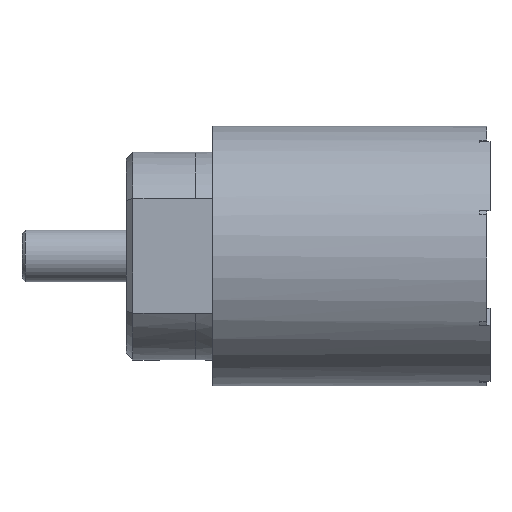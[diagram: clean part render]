
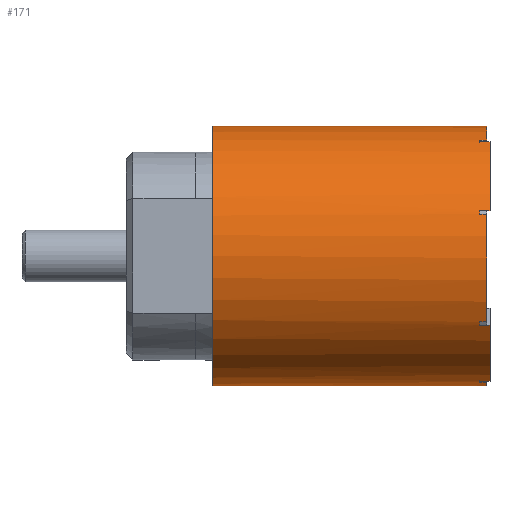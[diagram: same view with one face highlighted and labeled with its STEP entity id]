
A CAD part, top view. The second image highlights one B-rep face of the part: STEP entity #171.
In plain terms, the highlighted cylindrical face has radius 3.75 mm (diameter 7.5 mm), a full revolution.
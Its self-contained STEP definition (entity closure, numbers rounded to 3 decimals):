
#171=ADVANCED_FACE('',(#380,#381),#382,.T.);
#380=FACE_OUTER_BOUND('',#662,.T.);
#381=FACE_OUTER_BOUND('',#663,.T.);
#382=CYLINDRICAL_SURFACE('',#664,3.75);
#662=EDGE_LOOP('',(#996,#997,#998,#999,#1000,#1001,#1002,#1003,#1004,#1005,#1006,#1007,#1008,#1009,#1010,#1011,#1012,#1013,#1014,#1015,#1016,#1017,#1018,#1019,#1020,#1021,#1022,#1023));
#663=EDGE_LOOP('',(#1024));
#664=AXIS2_PLACEMENT_3D('',#1025,#1026,#1027);
#996=ORIENTED_EDGE('',*,*,#1695,.F.);
#997=ORIENTED_EDGE('',*,*,#1696,.T.);
#998=ORIENTED_EDGE('',*,*,#1697,.F.);
#999=ORIENTED_EDGE('',*,*,#1678,.T.);
#1000=ORIENTED_EDGE('',*,*,#1698,.T.);
#1001=ORIENTED_EDGE('',*,*,#1699,.F.);
#1002=ORIENTED_EDGE('',*,*,#1700,.F.);
#1003=ORIENTED_EDGE('',*,*,#1666,.T.);
#1004=ORIENTED_EDGE('',*,*,#1701,.F.);
#1005=ORIENTED_EDGE('',*,*,#1702,.T.);
#1006=ORIENTED_EDGE('',*,*,#1703,.F.);
#1007=ORIENTED_EDGE('',*,*,#1663,.T.);
#1008=ORIENTED_EDGE('',*,*,#1704,.T.);
#1009=ORIENTED_EDGE('',*,*,#1705,.F.);
#1010=ORIENTED_EDGE('',*,*,#1706,.F.);
#1011=ORIENTED_EDGE('',*,*,#1707,.T.);
#1012=ORIENTED_EDGE('',*,*,#1708,.F.);
#1013=ORIENTED_EDGE('',*,*,#1709,.T.);
#1014=ORIENTED_EDGE('',*,*,#1710,.F.);
#1015=ORIENTED_EDGE('',*,*,#1673,.T.);
#1016=ORIENTED_EDGE('',*,*,#1711,.T.);
#1017=ORIENTED_EDGE('',*,*,#1712,.F.);
#1018=ORIENTED_EDGE('',*,*,#1713,.F.);
#1019=ORIENTED_EDGE('',*,*,#1691,.T.);
#1020=ORIENTED_EDGE('',*,*,#1714,.F.);
#1021=ORIENTED_EDGE('',*,*,#1715,.T.);
#1022=ORIENTED_EDGE('',*,*,#1716,.T.);
#1023=ORIENTED_EDGE('',*,*,#1717,.F.);
#1024=ORIENTED_EDGE('',*,*,#1718,.F.);
#1025=CARTESIAN_POINT('',(2.8,0.0,0.0));
#1026=DIRECTION('',(1.0,0.0,0.0));
#1027=DIRECTION('',(0.0,1.0,0.0));
#1663=EDGE_CURVE('',#1960,#1964,#1966,.F.);
#1666=EDGE_CURVE('',#1971,#1968,#1972,.F.);
#1673=EDGE_CURVE('',#1978,#1982,#1984,.F.);
#1678=EDGE_CURVE('',#1987,#1991,#1993,.F.);
#1691=EDGE_CURVE('',#2015,#2012,#2016,.F.);
#1695=EDGE_CURVE('',#2021,#2022,#2023,.T.);
#1696=EDGE_CURVE('',#2021,#2024,#2025,.T.);
#1697=EDGE_CURVE('',#1987,#2024,#2026,.F.);
#1698=EDGE_CURVE('',#1991,#2027,#2028,.T.);
#1699=EDGE_CURVE('',#2029,#2027,#2030,.T.);
#1700=EDGE_CURVE('',#1971,#2029,#2031,.T.);
#1701=EDGE_CURVE('',#2032,#1968,#2033,.T.);
#1702=EDGE_CURVE('',#2032,#2034,#2035,.T.);
#1703=EDGE_CURVE('',#1960,#2034,#2036,.F.);
#1704=EDGE_CURVE('',#1964,#2037,#2038,.T.);
#1705=EDGE_CURVE('',#2039,#2037,#2040,.T.);
#1706=EDGE_CURVE('',#2041,#2039,#2042,.T.);
#1707=EDGE_CURVE('',#2041,#2043,#2044,.F.);
#1708=EDGE_CURVE('',#2045,#2043,#2046,.T.);
#1709=EDGE_CURVE('',#2045,#2047,#2048,.T.);
#1710=EDGE_CURVE('',#1978,#2047,#2049,.F.);
#1711=EDGE_CURVE('',#1982,#2050,#2051,.T.);
#1712=EDGE_CURVE('',#2052,#2050,#2053,.T.);
#1713=EDGE_CURVE('',#2015,#2052,#2054,.T.);
#1714=EDGE_CURVE('',#2055,#2012,#2056,.T.);
#1715=EDGE_CURVE('',#2055,#2057,#2058,.T.);
#1716=EDGE_CURVE('',#2057,#2059,#2060,.T.);
#1717=EDGE_CURVE('',#2022,#2059,#2061,.T.);
#1718=EDGE_CURVE('',#2062,#2062,#2063,.T.);
#1960=VERTEX_POINT('',#2409);
#1964=VERTEX_POINT('',#2414);
#1966=CIRCLE('',#2417,3.75);
#1968=VERTEX_POINT('',#2419);
#1971=VERTEX_POINT('',#2423);
#1972=CIRCLE('',#2424,3.75);
#1978=VERTEX_POINT('',#2431);
#1982=VERTEX_POINT('',#2436);
#1984=CIRCLE('',#2439,3.75);
#1987=VERTEX_POINT('',#2442);
#1991=VERTEX_POINT('',#2447);
#1993=CIRCLE('',#2450,3.75);
#2012=VERTEX_POINT('',#2471);
#2015=VERTEX_POINT('',#2475);
#2016=CIRCLE('',#2476,3.75);
#2021=VERTEX_POINT('',#2482);
#2022=VERTEX_POINT('',#2483);
#2023=LINE('',#2484,#2485);
#2024=VERTEX_POINT('',#2486);
#2025=CIRCLE('',#2487,3.75);
#2026=LINE('',#2488,#2489);
#2027=VERTEX_POINT('',#2490);
#2028=LINE('',#2491,#2492);
#2029=VERTEX_POINT('',#2493);
#2030=CIRCLE('',#2494,3.75);
#2031=LINE('',#2495,#2496);
#2032=VERTEX_POINT('',#2497);
#2033=LINE('',#2498,#2499);
#2034=VERTEX_POINT('',#2500);
#2035=CIRCLE('',#2501,3.75);
#2036=LINE('',#2502,#2503);
#2037=VERTEX_POINT('',#2504);
#2038=LINE('',#2505,#2506);
#2039=VERTEX_POINT('',#2507);
#2040=CIRCLE('',#2508,3.75);
#2041=VERTEX_POINT('',#2509);
#2042=LINE('',#2510,#2511);
#2043=VERTEX_POINT('',#2512);
#2044=CIRCLE('',#2513,3.75);
#2045=VERTEX_POINT('',#2514);
#2046=LINE('',#2515,#2516);
#2047=VERTEX_POINT('',#2517);
#2048=CIRCLE('',#2518,3.75);
#2049=LINE('',#2519,#2520);
#2050=VERTEX_POINT('',#2521);
#2051=LINE('',#2522,#2523);
#2052=VERTEX_POINT('',#2524);
#2053=CIRCLE('',#2525,3.75);
#2054=LINE('',#2526,#2527);
#2055=VERTEX_POINT('',#2528);
#2056=LINE('',#2529,#2530);
#2057=VERTEX_POINT('',#2531);
#2058=CIRCLE('',#2532,3.75);
#2059=VERTEX_POINT('',#2533);
#2060=LINE('',#2534,#2535);
#2061=CIRCLE('',#2536,3.75);
#2062=VERTEX_POINT('',#2537);
#2063=CIRCLE('',#2538,3.75);
#2409=CARTESIAN_POINT('',(10.2,-2.0,3.172));
#2414=CARTESIAN_POINT('',(10.2,-1.9,3.233));
#2417=AXIS2_PLACEMENT_3D('',#2946,#2947,#2948);
#2419=CARTESIAN_POINT('',(10.2,-3.614,1.0));
#2423=CARTESIAN_POINT('',(10.2,-3.64,0.9));
#2424=AXIS2_PLACEMENT_3D('',#2950,#2951,#2952);
#2431=CARTESIAN_POINT('',(10.2,3.29,1.8));
#2436=CARTESIAN_POINT('',(10.2,3.343,1.7));
#2439=AXIS2_PLACEMENT_3D('',#2962,#2963,#2964);
#2442=CARTESIAN_POINT('',(10.2,-3.614,-1.0));
#2447=CARTESIAN_POINT('',(10.2,-3.64,-0.9));
#2450=AXIS2_PLACEMENT_3D('',#2970,#2971,#2972);
#2471=CARTESIAN_POINT('',(10.2,3.29,-1.8));
#2475=CARTESIAN_POINT('',(10.2,3.343,-1.7));
#2476=AXIS2_PLACEMENT_3D('',#2991,#2992,#2993);
#2482=CARTESIAN_POINT('',(10.5,-1.5,-3.437));
#2483=CARTESIAN_POINT('',(9.3,-1.5,-3.437));
#2484=CARTESIAN_POINT('',(10.2,-1.5,-3.437));
#2485=VECTOR('',#2998,1.0);
#2486=CARTESIAN_POINT('',(10.5,-3.614,-1.0));
#2487=AXIS2_PLACEMENT_3D('',#2999,#3000,#3001);
#2488=CARTESIAN_POINT('',(0.0,-3.614,-1.0));
#2489=VECTOR('',#3002,1.0);
#2490=CARTESIAN_POINT('',(10.4,-3.64,-0.9));
#2491=CARTESIAN_POINT('',(10.2,-3.64,-0.9));
#2492=VECTOR('',#3003,1.0);
#2493=CARTESIAN_POINT('',(10.4,-3.64,0.9));
#2494=AXIS2_PLACEMENT_3D('',#3004,#3005,#3006);
#2495=CARTESIAN_POINT('',(10.2,-3.64,0.9));
#2496=VECTOR('',#3007,1.0);
#2497=CARTESIAN_POINT('',(10.5,-3.614,1.0));
#2498=CARTESIAN_POINT('',(0.0,-3.614,1.0));
#2499=VECTOR('',#3008,1.0);
#2500=CARTESIAN_POINT('',(10.5,-2.0,3.172));
#2501=AXIS2_PLACEMENT_3D('',#3009,#3010,#3011);
#2502=CARTESIAN_POINT('',(0.0,-2.0,3.172));
#2503=VECTOR('',#3012,1.0);
#2504=CARTESIAN_POINT('',(10.4,-1.9,3.233));
#2505=CARTESIAN_POINT('',(10.2,-1.9,3.233));
#2506=VECTOR('',#3013,1.0);
#2507=CARTESIAN_POINT('',(10.4,1.2,3.553));
#2508=AXIS2_PLACEMENT_3D('',#3014,#3015,#3016);
#2509=CARTESIAN_POINT('',(10.2,1.2,3.553));
#2510=CARTESIAN_POINT('',(10.2,1.2,3.553));
#2511=VECTOR('',#3017,1.0);
#2512=CARTESIAN_POINT('',(10.2,1.3,3.517));
#2513=AXIS2_PLACEMENT_3D('',#3018,#3019,#3020);
#2514=CARTESIAN_POINT('',(10.5,1.3,3.517));
#2515=CARTESIAN_POINT('',(0.0,1.3,3.517));
#2516=VECTOR('',#3021,1.0);
#2517=CARTESIAN_POINT('',(10.5,3.29,1.8));
#2518=AXIS2_PLACEMENT_3D('',#3022,#3023,#3024);
#2519=CARTESIAN_POINT('',(0.0,3.29,1.8));
#2520=VECTOR('',#3025,1.0);
#2521=CARTESIAN_POINT('',(10.4,3.343,1.7));
#2522=CARTESIAN_POINT('',(10.2,3.343,1.7));
#2523=VECTOR('',#3026,1.0);
#2524=CARTESIAN_POINT('',(10.4,3.343,-1.7));
#2525=AXIS2_PLACEMENT_3D('',#3027,#3028,#3029);
#2526=CARTESIAN_POINT('',(10.2,3.343,-1.7));
#2527=VECTOR('',#3030,1.0);
#2528=CARTESIAN_POINT('',(10.5,3.29,-1.8));
#2529=CARTESIAN_POINT('',(0.0,3.29,-1.8));
#2530=VECTOR('',#3031,1.0);
#2531=CARTESIAN_POINT('',(10.5,1.5,-3.437));
#2532=AXIS2_PLACEMENT_3D('',#3032,#3033,#3034);
#2533=CARTESIAN_POINT('',(9.3,1.5,-3.437));
#2534=CARTESIAN_POINT('',(10.2,1.5,-3.437));
#2535=VECTOR('',#3035,1.0);
#2536=AXIS2_PLACEMENT_3D('',#3036,#3037,#3038);
#2537=CARTESIAN_POINT('',(2.5,0.0,3.75));
#2538=AXIS2_PLACEMENT_3D('',#3039,#3040,#3041);
#2946=CARTESIAN_POINT('',(10.2,0.0,0.0));
#2947=DIRECTION('',(1.0,0.0,0.0));
#2948=DIRECTION('',(0.0,0.0,-1.0));
#2950=CARTESIAN_POINT('',(10.2,0.0,0.0));
#2951=DIRECTION('',(1.0,0.0,0.0));
#2952=DIRECTION('',(0.0,0.0,-1.0));
#2962=CARTESIAN_POINT('',(10.2,0.0,0.0));
#2963=DIRECTION('',(1.0,0.0,0.0));
#2964=DIRECTION('',(0.0,0.0,-1.0));
#2970=CARTESIAN_POINT('',(10.2,0.0,0.0));
#2971=DIRECTION('',(1.0,0.0,0.0));
#2972=DIRECTION('',(0.0,0.0,-1.0));
#2991=CARTESIAN_POINT('',(10.2,0.0,0.0));
#2992=DIRECTION('',(1.0,0.0,0.0));
#2993=DIRECTION('',(0.0,0.0,-1.0));
#2998=DIRECTION('',(-1.0,0.0,0.0));
#2999=CARTESIAN_POINT('',(10.5,0.0,0.0));
#3000=DIRECTION('',(-1.0,0.0,0.0));
#3001=DIRECTION('',(0.0,0.0,1.0));
#3002=DIRECTION('',(-1.0,0.0,0.0));
#3003=DIRECTION('',(1.0,0.,0.));
#3004=CARTESIAN_POINT('',(10.4,0.,0.));
#3005=DIRECTION('',(1.0,0.,0.));
#3006=DIRECTION('',(0.,1.0,0.));
#3007=DIRECTION('',(1.0,0.,0.));
#3008=DIRECTION('',(-1.0,0.0,0.0));
#3009=CARTESIAN_POINT('',(10.5,0.0,0.0));
#3010=DIRECTION('',(-1.0,0.0,0.0));
#3011=DIRECTION('',(0.0,0.0,1.0));
#3012=DIRECTION('',(-1.0,0.0,0.0));
#3013=DIRECTION('',(1.0,0.,0.));
#3014=CARTESIAN_POINT('',(10.4,0.,0.));
#3015=DIRECTION('',(1.0,0.,0.));
#3016=DIRECTION('',(0.,1.0,0.));
#3017=DIRECTION('',(1.0,0.,0.));
#3018=CARTESIAN_POINT('',(10.2,0.0,0.0));
#3019=DIRECTION('',(1.0,0.0,0.0));
#3020=DIRECTION('',(0.0,0.0,-1.0));
#3021=DIRECTION('',(-1.0,0.0,0.0));
#3022=CARTESIAN_POINT('',(10.5,0.0,0.0));
#3023=DIRECTION('',(-1.0,0.0,0.0));
#3024=DIRECTION('',(0.0,0.0,1.0));
#3025=DIRECTION('',(-1.0,0.0,0.0));
#3026=DIRECTION('',(1.0,0.,0.));
#3027=CARTESIAN_POINT('',(10.4,0.,0.));
#3028=DIRECTION('',(1.0,0.,0.));
#3029=DIRECTION('',(0.,1.0,0.));
#3030=DIRECTION('',(1.0,0.,0.));
#3031=DIRECTION('',(-1.0,0.0,0.0));
#3032=CARTESIAN_POINT('',(10.5,0.0,0.0));
#3033=DIRECTION('',(-1.0,0.0,0.0));
#3034=DIRECTION('',(0.0,0.0,1.0));
#3035=DIRECTION('',(-1.0,0.0,0.0));
#3036=CARTESIAN_POINT('',(9.3,0.0,0.0));
#3037=DIRECTION('',(1.0,0.0,0.0));
#3038=DIRECTION('',(0.0,0.0,-1.0));
#3039=CARTESIAN_POINT('',(2.5,0.0,0.0));
#3040=DIRECTION('',(-1.0,0.0,0.0));
#3041=DIRECTION('',(0.0,0.0,1.0));
